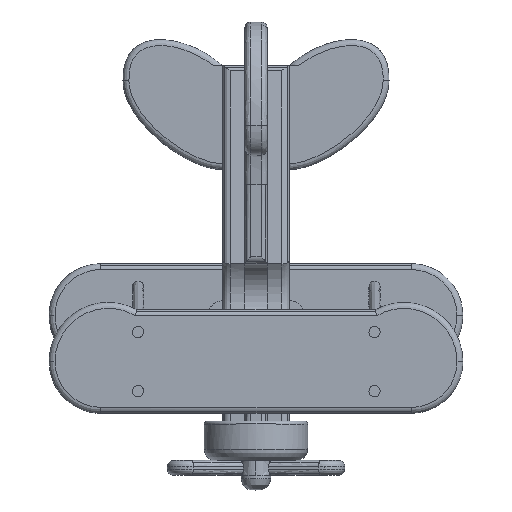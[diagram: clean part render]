
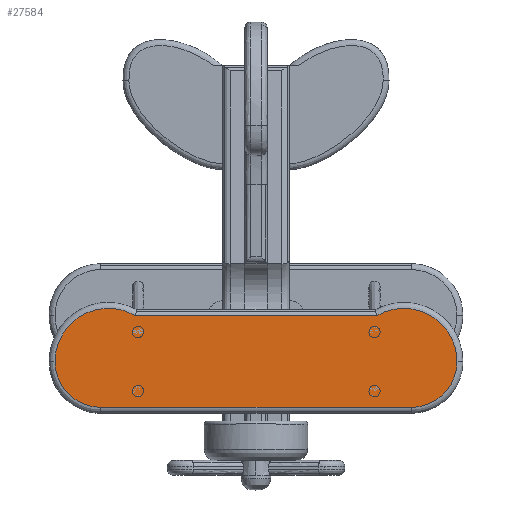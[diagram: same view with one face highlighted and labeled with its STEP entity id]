
A CAD part, top view. The second image highlights one B-rep face of the part: STEP entity #27584.
In plain terms, the highlighted free-form (B-spline) face has degree [1, 1] with [2, 2] control points.
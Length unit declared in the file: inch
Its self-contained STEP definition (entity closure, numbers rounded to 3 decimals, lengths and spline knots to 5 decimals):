
#27205 = CARTESIAN_POINT ('', (-6.8, -1.38871, 8.70281));
#27206 = VERTEX_POINT ('', #27205);
#27213 = CARTESIAN_POINT ('', (-4.08485, 0.16129, 8.70281));
#27214 = VERTEX_POINT ('', #27213);
#27215 = CARTESIAN_POINT ('', (-6.8, -1.38871, 8.70281));
#27216 = CARTESIAN_POINT ('', (-6.8, -0.34363, 8.70281));
#27217 = CARTESIAN_POINT ('', (-5.89239, 0.1745, 8.70281));
#27218 = CARTESIAN_POINT ('', (-4.98478, 0.69263, 8.70281));
#27219 = CARTESIAN_POINT ('', (-4.08485, 0.16129, 8.70281));
#27220 = (
   BOUNDED_CURVE ()
   B_SPLINE_CURVE (2, (#27215, #27216, #27217, #27218, #27219), .UNSPECIFIED., .F., .U.)
   B_SPLINE_CURVE_WITH_KNOTS ((3, 2, 3), (5.24511, 6.29718, 7.34925), .UNSPECIFIED.)
   CURVE ()
   GEOMETRIC_REPRESENTATION_ITEM ()
   RATIONAL_B_SPLINE_CURVE ((1., 0.865, 1., 0.865, 1.))
   REPRESENTATION_ITEM ('')
);
#27221 = EDGE_CURVE ('', #27206, #27214, #27220, .T.);
#27388 = CARTESIAN_POINT ('', (4.08485, 0.16129, 8.70281));
#27389 = VERTEX_POINT ('', #27388);
#27401 = CARTESIAN_POINT ('', (6.8, -1.38871, 8.70281));
#27402 = VERTEX_POINT ('', #27401);
#27403 = CARTESIAN_POINT ('', (4.08485, 0.16129, 8.70281));
#27404 = CARTESIAN_POINT ('', (4.98479, 0.69263, 8.70281));
#27405 = CARTESIAN_POINT ('', (5.89239, 0.1745, 8.70281));
#27406 = CARTESIAN_POINT ('', (6.8, -0.34363, 8.70281));
#27407 = CARTESIAN_POINT ('', (6.8, -1.38871, 8.70281));
#27408 = (
   BOUNDED_CURVE ()
   B_SPLINE_CURVE (2, (#27403, #27404, #27405, #27406, #27407), .UNSPECIFIED., .F., .U.)
   B_SPLINE_CURVE_WITH_KNOTS ((3, 2, 3), (5.21712, 6.26919, 7.32126), .UNSPECIFIED.)
   CURVE ()
   GEOMETRIC_REPRESENTATION_ITEM ()
   RATIONAL_B_SPLINE_CURVE ((1., 0.865, 1., 0.865, 1.))
   REPRESENTATION_ITEM ('')
);
#27409 = EDGE_CURVE ('', #27389, #27402, #27408, .T.);
#27519 = CARTESIAN_POINT ('', (-4.08485, 0.16129, 8.70281));
#27520 = CARTESIAN_POINT ('', (4.08485, 0.16129, 8.70281));
#27521 = B_SPLINE_CURVE_WITH_KNOTS ('', 1, (#27519, #27520), .UNSPECIFIED., .F., .U., (2, 2), (0., 1.), .UNSPECIFIED.);
#27522 = EDGE_CURVE ('', #27214, #27389, #27521, .T.);
#27549 = ORIENTED_EDGE ('', *, *, #27221, .F.);
#27550 = CARTESIAN_POINT ('', (-5.25, -2.93871, 8.70281));
#27551 = VERTEX_POINT ('', #27550);
#27552 = CARTESIAN_POINT ('', (-5.25, -2.93871, 8.70281));
#27553 = CARTESIAN_POINT ('', (-5.89203, -2.93871, 8.70281));
#27554 = CARTESIAN_POINT ('', (-6.34602, -2.48473, 8.70281));
#27555 = CARTESIAN_POINT ('', (-6.8, -2.03074, 8.70281));
#27556 = CARTESIAN_POINT ('', (-6.8, -1.38871, 8.70281));
#27557 = (
   BOUNDED_CURVE ()
   B_SPLINE_CURVE (2, (#27552, #27553, #27554, #27555, #27556), .UNSPECIFIED., .F., .U.)
   B_SPLINE_CURVE_WITH_KNOTS ((3, 2, 3), (5.49779, 6.28319, 7.06858), .UNSPECIFIED.)
   CURVE ()
   GEOMETRIC_REPRESENTATION_ITEM ()
   RATIONAL_B_SPLINE_CURVE ((1., 0.924, 1., 0.924, 1.))
   REPRESENTATION_ITEM ('')
);
#27558 = EDGE_CURVE ('', #27551, #27206, #27557, .T.);
#27559 = ORIENTED_EDGE ('', *, *, #27558, .F.);
#27560 = CARTESIAN_POINT ('', (5.25, -2.93871, 8.70281));
#27561 = VERTEX_POINT ('', #27560);
#27562 = CARTESIAN_POINT ('', (5.25, -2.93871, 8.70281));
#27563 = CARTESIAN_POINT ('', (-5.25, -2.93871, 8.70281));
#27564 = B_SPLINE_CURVE_WITH_KNOTS ('', 1, (#27562, #27563), .UNSPECIFIED., .F., .U., (2, 2), (0., 1.), .UNSPECIFIED.);
#27565 = EDGE_CURVE ('', #27561, #27551, #27564, .T.);
#27566 = ORIENTED_EDGE ('', *, *, #27565, .F.);
#27567 = CARTESIAN_POINT ('', (6.8, -1.38871, 8.70281));
#27568 = CARTESIAN_POINT ('', (6.8, -2.03075, 8.70281));
#27569 = CARTESIAN_POINT ('', (6.34602, -2.48473, 8.70281));
#27570 = CARTESIAN_POINT ('', (5.89203, -2.93871, 8.70281));
#27571 = CARTESIAN_POINT ('', (5.25, -2.93871, 8.70281));
#27572 = (
   BOUNDED_CURVE ()
   B_SPLINE_CURVE (2, (#27567, #27568, #27569, #27570, #27571), .UNSPECIFIED., .F., .U.)
   B_SPLINE_CURVE_WITH_KNOTS ((3, 2, 3), (5.49779, 6.28319, 7.06858), .UNSPECIFIED.)
   CURVE ()
   GEOMETRIC_REPRESENTATION_ITEM ()
   RATIONAL_B_SPLINE_CURVE ((1., 0.924, 1., 0.924, 1.))
   REPRESENTATION_ITEM ('')
);
#27573 = EDGE_CURVE ('', #27402, #27561, #27572, .T.);
#27574 = ORIENTED_EDGE ('', *, *, #27573, .F.);
#27575 = ORIENTED_EDGE ('', *, *, #27409, .F.);
#27576 = ORIENTED_EDGE ('', *, *, #27522, .F.);
#27577 = EDGE_LOOP ('', (#27549, #27559, #27566, #27574, #27575, #27576));
#27578 = FACE_OUTER_BOUND ('', #27577, .T.);
#27579 = CARTESIAN_POINT ('', (6.83937, -2.97808, 8.70281));
#27580 = CARTESIAN_POINT ('', (-6.83937, -2.97808, 8.70281));
#27581 = CARTESIAN_POINT ('', (6.83937, 0.732, 8.70281));
#27582 = CARTESIAN_POINT ('', (-6.83937, 0.732, 8.70281));
#27583 = B_SPLINE_SURFACE_WITH_KNOTS ('', 1, 1, ((#27579, #27580), (#27581, #27582)), .UNSPECIFIED., .F., .F., .U., (2, 2), (2, 2), (-0.05387, 0.04037), (-0.17372, 0.17372), .UNSPECIFIED.);
#27584 = ADVANCED_FACE ('', (#27578), #27583, .T.);
